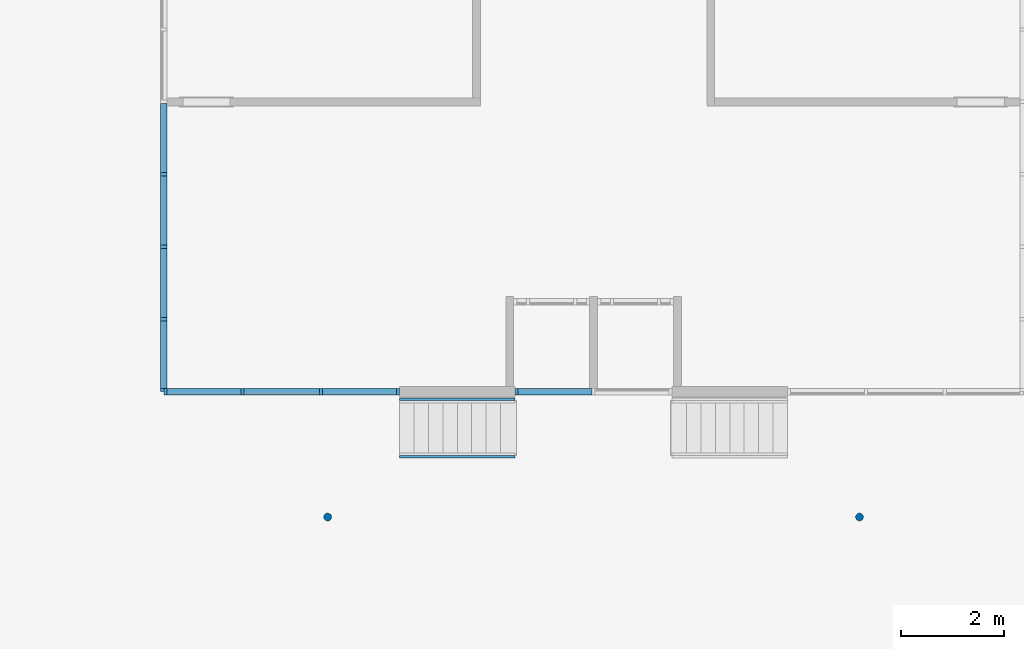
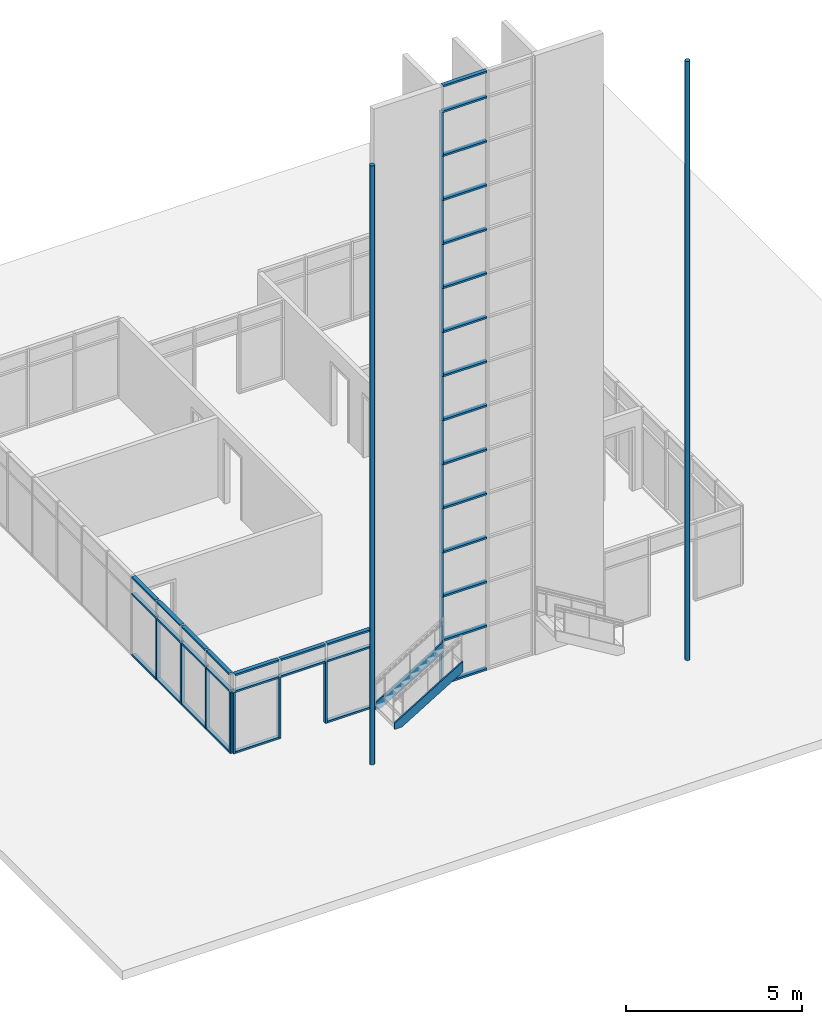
# One storey, part 1 of 12: 58 members, 2 columns, 4 elements without a shape of their own.
"""IFC2X3 building model written with IfcOpenShell, lengths in feet."""

from ifc_helpers import new_model, entity, si_unit, converted_unit, derived_unit, direction, frame, frame_2d, origin, origin_2d_with_axis, place, context, subcontext, project, spatial, polyline, rectangle, circle, outline, extrude, source, transform, mapped, material, type_object, type_shapes, element, aggregate, save


model = new_model("IFC2X3")

# Units and contexts
model_context = context("Model", 3, precision=0.0001, world=origin(), true_north=direction((6.12303176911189e-17, 1.0)))
body_context = subcontext(model_context, "Body", "Model", "MODEL_VIEW")
ifc_project = project(units=[converted_unit("LENGTHUNIT", "FOOT", entity("IfcRatioMeasure", 0.3048), si_unit("LENGTHUNIT", "METRE"), dimensions=[1, 0, 0, 0, 0, 0, 0]), converted_unit("AREAUNIT", "SQUARE FOOT", entity("IfcRatioMeasure", 0.09290304), si_unit("AREAUNIT", "SQUARE_METRE"), dimensions=[2, 0, 0, 0, 0, 0, 0]), converted_unit("VOLUMEUNIT", "CUBIC FOOT", entity("IfcRatioMeasure", 0.028316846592), si_unit("VOLUMEUNIT", "CUBIC_METRE"), dimensions=[3, 0, 0, 0, 0, 0, 0]), converted_unit("PLANEANGLEUNIT", "DEGREE", entity("IfcRatioMeasure", 0.0174532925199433), si_unit("PLANEANGLEUNIT", "RADIAN"), dimensions=[0, 0, 0, 0, 0, 0, 0]), si_unit("MASSUNIT", "GRAM", prefix="KILO"), derived_unit("MASSDENSITYUNIT", [(si_unit("MASSUNIT", "GRAM", prefix="KILO"), 1), (si_unit("LENGTHUNIT", "METRE"), -3)]), si_unit("TIMEUNIT", "SECOND"), si_unit("FREQUENCYUNIT", "HERTZ"), si_unit("THERMODYNAMICTEMPERATUREUNIT", "DEGREE_CELSIUS"), derived_unit("THERMALTRANSMITTANCEUNIT", [(si_unit("MASSUNIT", "GRAM", prefix="KILO"), 1), (si_unit("THERMODYNAMICTEMPERATUREUNIT", "KELVIN"), -1), (si_unit("TIMEUNIT", "SECOND"), -3)]), derived_unit("VOLUMETRICFLOWRATEUNIT", [(si_unit("LENGTHUNIT", "METRE"), 3), (si_unit("TIMEUNIT", "SECOND"), -1)]), si_unit("ELECTRICCURRENTUNIT", "AMPERE"), si_unit("ELECTRICVOLTAGEUNIT", "VOLT"), si_unit("POWERUNIT", "WATT"), si_unit("FORCEUNIT", "NEWTON"), si_unit("ILLUMINANCEUNIT", "LUX"), si_unit("LUMINOUSFLUXUNIT", "LUMEN"), si_unit("LUMINOUSINTENSITYUNIT", "CANDELA"), derived_unit("USERDEFINED", [(si_unit("MASSUNIT", "GRAM", prefix="KILO"), -1), (si_unit("LENGTHUNIT", "METRE"), -2), (si_unit("TIMEUNIT", "SECOND"), 3), (si_unit("LUMINOUSFLUXUNIT", "LUMEN"), 1)]), derived_unit("LINEARVELOCITYUNIT", [(si_unit("LENGTHUNIT", "METRE"), 1), (si_unit("TIMEUNIT", "SECOND"), -1)]), si_unit("PRESSUREUNIT", "PASCAL"), derived_unit("USERDEFINED", [(si_unit("LENGTHUNIT", "METRE"), -2), (si_unit("MASSUNIT", "GRAM", prefix="KILO"), 1), (si_unit("TIMEUNIT", "SECOND"), -2)])], contexts=[model_context])

# Site, building, storey
site_placement = place(None, origin())
site = spatial("IfcSite", under=ifc_project, at=site_placement, Name="Default", CompositionType="ELEMENT")
building_placement = place(site_placement, origin())
building = spatial("IfcBuilding", under=site, at=building_placement, CompositionType="ELEMENT")
storey_placement = place(building_placement, origin())
storey = spatial("IfcBuildingStorey", under=building, at=storey_placement, Name="Level 1", CompositionType="ELEMENT", Elevation=0.0)

# Columns
column_type = type_object("IfcColumnType", Name="06\" Diameter", PredefinedType="COLUMN")
shared_shape_1 = source(origin(), body_context, "Body", "SweptSolid", [
    extrude(circle(Radius=0.249999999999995, at=frame_2d((1.4707620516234e-16, 0.0833333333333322), x_axis=(1.0, 0.0))), frame((0.0, 0.0833333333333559, 0.0), z_axis=(0.0, 0.0, 1.0), x_axis=(-1.0, 0.0, 0.0)), (0.0, 0.0, 1.0), 67.9999999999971),
])
type_shapes(column_type, [shared_shape_1])
for number, where in (
    (1, (-50.9084961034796, -14.9203079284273, 0.0)),
    (2, (-17.0751627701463, -14.9203079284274, 0.0)),
):
    element("IfcColumn", number, at=place(storey_placement, frame(where)), inside=storey, type_object=column_type, Name="Round Column:06\" Diameter", ObjectType="06\" Diameter", context=body_context, shape_type="MappedRepresentation", body=[
        mapped(shared_shape_1, transform((0.0, 0.0, 0.0), scale=1.0)),
    ])

# Stair, members
stair_placement = place(storey_placement, origin())
stair = element("IfcStair", 3, at=stair_placement, inside=storey, Name="Assembled Stair:Stair", ObjectType="Assembled Stair:7\" max riser 11\" tread", ShapeType="NOTDEFINED")
member_type_1 = type_object("IfcMemberType", Name="Stringer:Stringer - 2\" Width", PredefinedType="STRINGER")
member_1_placement = place(stair_placement, origin())
member_1 = element("IfcMember", 4, at=member_1_placement, type_object=member_type_1, Name="Assembled Stair:Stair:188699 Stringer 1", ObjectType="Assembled Stair:7\" max riser 11\" tread", context=body_context, shape_type="SweptSolid", body=[
    extrude(outline(polyline([(-3.29811864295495, -0.519028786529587), (5.27689530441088, -0.519028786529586), (4.67083469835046, 0.480971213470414), (-2.99079942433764, 0.480971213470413), (-3.65881193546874, 0.0761151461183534), (-3.29811864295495, -0.519028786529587)])), frame((-43.235605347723, -7.50364126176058, 1.96146201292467), z_axis=(0.0, 1.0, 0.0), x_axis=(0.855197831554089, 0.0, 0.518301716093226)), (0.0, 0.0, 1.0), 0.166666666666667),
])
member_2_placement = place(stair_placement, origin())
member_2 = element("IfcMember", 5, at=member_2_placement, type_object=member_type_1, Name="Assembled Stair:Stair:188699 Stringer 2", ObjectType="Assembled Stair:7\" max riser 11\" tread", context=body_context, shape_type="SweptSolid", body=[
    extrude(outline(polyline([(-3.29811864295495, -0.519028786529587), (5.27689530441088, -0.519028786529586), (4.67083469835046, 0.480971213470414), (-2.99079942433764, 0.480971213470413), (-3.65881193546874, 0.0761151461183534), (-3.29811864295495, -0.519028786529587)])), frame((-43.235605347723, -11.1703079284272, 1.96146201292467), z_axis=(0.0, 1.0, 0.0), x_axis=(0.855197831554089, 0.0, 0.518301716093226)), (0.0, 0.0, 1.0), 0.166666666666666),
])
aggregate(stair, [member_1, member_2])

# Curtain wall, member
curtain_wall_type_1 = type_object("IfcCurtainWallType", Name="Curtain Wall:Storefront", PredefinedType="NOTDEFINED")
curtain_wall_1_placement = place(storey_placement, origin())
curtain_wall_1 = element("IfcCurtainWall", 6, at=curtain_wall_1_placement, inside=storey, type_object=curtain_wall_type_1, Name="Curtain Wall:Storefront", ObjectType="Curtain Wall:Storefront")
ifc_material = material(Name="Aluminum")
member_type_2 = type_object("IfcMemberType", Name="2.5\" x 5\" rectangular", PredefinedType="MEMBER")
shared_shape_2 = source(origin(), body_context, "Body", "SweptSolid", [
    extrude(rectangle(XDim=0.416666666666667, YDim=0.208333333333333, at=origin_2d_with_axis()), frame((-0.104166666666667, 0.0, -4.6875), z_axis=(0.0, 0.0, 1.0), x_axis=(0.0, -1.0, 0.0)), (0.0, 0.0, 1.0), 4.6875),
])
type_shapes(member_type_2, [shared_shape_2])
member_3_placement = place(storey_placement, frame((-34.0959961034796, -6.94114126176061, 68.0), z_axis=(1.0, 0.0, 0.0), x_axis=(0.0, 0.0, 1.0)))
member_3 = element("IfcMember", 7, at=member_3_placement, type_object=member_type_2, material=ifc_material, Name="Rectangular Mullion:2.5\" x 5\" rectangular", ObjectType="2.5\" x 5\" rectangular", context=body_context, shape_type="MappedRepresentation", body=[
    mapped(shared_shape_2, transform((0.0, 0.0, 0.0), scale=1.0)),
])

# Curtain wall, members
curtain_wall_type_2 = type_object("IfcCurtainWallType", Name="Curtain Wall:Storefront 2", PredefinedType="NOTDEFINED")
curtain_wall_2_placement = place(storey_placement, origin())
curtain_wall_2 = element("IfcCurtainWall", 8, at=curtain_wall_2_placement, inside=storey, type_object=curtain_wall_type_2, Name="Curtain Wall:Storefront 2", ObjectType="Curtain Wall:Storefront 2")
member_4_placement = place(storey_placement, frame((-61.1168294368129, -6.94114126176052, 9.0), z_axis=(-1.0, 0.0, 0.0), x_axis=(0.0, 0.0, 1.0)))
member_4 = element("IfcMember", 9, at=member_4_placement, type_object=member_type_2, material=ifc_material, Name="Rectangular Mullion:2.5\" x 5\" rectangular", ObjectType="2.5\" x 5\" rectangular", context=body_context, shape_type="MappedRepresentation", body=[
    mapped(shared_shape_2, transform((0.0, 0.0, 0.0), scale=1.0)),
])
member_5_placement = place(storey_placement, frame((-51.2209961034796, -6.94114126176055, 9.0), z_axis=(-1.0, 0.0, 0.0), x_axis=(0.0, 0.0, 1.0)))
member_5 = element("IfcMember", 10, at=member_5_placement, type_object=member_type_2, material=ifc_material, Name="Rectangular Mullion:2.5\" x 5\" rectangular", ObjectType="2.5\" x 5\" rectangular", context=body_context, shape_type="MappedRepresentation", body=[
    mapped(shared_shape_2, transform((0.0, 0.0, 0.0), scale=1.0)),
])

# Member
member_type_3 = type_object("IfcMemberType", Name="2.5\" x 5\" rectangular", PredefinedType="MEMBER")
shared_shape_3 = source(origin(), body_context, "Body", "SweptSolid", [
    extrude(rectangle(XDim=0.416666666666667, YDim=0.208333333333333, at=origin_2d_with_axis()), frame((-0.104166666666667, 0.0, -4.6875), z_axis=(0.0, 0.0, 1.0), x_axis=(0.0, -1.0, 0.0)), (0.0, 0.0, 1.0), 4.6875),
])
type_shapes(member_type_3, [shared_shape_3])
member_6_placement = place(storey_placement, frame((-38.7834961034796, -6.94114126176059, 0.0), z_axis=(-1.0, 0.0, 0.0), x_axis=(0.0, 0.0, -1.0)))
member_6 = element("IfcMember", 11, at=member_6_placement, type_object=member_type_3, material=ifc_material, Name="Rectangular Mullion:2.5\" x 5\" rectangular", ObjectType="2.5\" x 5\" rectangular", context=body_context, shape_type="MappedRepresentation", body=[
    mapped(shared_shape_3, transform((0.0, 0.0, 0.0), scale=1.0)),
])

member_7_placement = place(storey_placement, frame((-46.5334961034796, -6.94114126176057, 0.0), z_axis=(1.0, 0.0, 0.0), x_axis=(0.0, 0.0, -1.0)))
member_7 = element("IfcMember", 12, at=member_7_placement, type_object=member_type_3, material=ifc_material, Name="Rectangular Mullion:2.5\" x 5\" rectangular", ObjectType="2.5\" x 5\" rectangular", context=body_context, shape_type="MappedRepresentation", body=[
    mapped(shared_shape_3, transform((0.0, 0.0, 0.0), scale=1.0)),
])

member_8_placement = place(storey_placement, frame((-56.4293294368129, -6.94114126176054, 0.0), z_axis=(1.0, 0.0, 0.0), x_axis=(0.0, 0.0, -1.0)))
member_8 = element("IfcMember", 13, at=member_8_placement, type_object=member_type_3, material=ifc_material, Name="Rectangular Mullion:2.5\" x 5\" rectangular", ObjectType="2.5\" x 5\" rectangular", context=body_context, shape_type="MappedRepresentation", body=[
    mapped(shared_shape_3, transform((0.0, 0.0, 0.0), scale=1.0)),
])

member_type_4 = type_object("IfcMemberType", Name="2.5\" x 5\" rectangular", PredefinedType="MEMBER")
shared_shape_4 = source(origin(), body_context, "Body", "SweptSolid", [
    extrude(rectangle(XDim=0.416666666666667, YDim=0.208333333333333, at=origin_2d_with_axis()), frame((-0.104166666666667, 0.0, -5.0), z_axis=(0.0, 0.0, 1.0), x_axis=(0.0, -1.0, 0.0)), (0.0, 0.0, 1.0), 5.0),
])
type_shapes(member_type_4, [shared_shape_4])
member_9_placement = place(storey_placement, frame((-38.9918294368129, -6.94114126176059, 5.0), z_axis=(0.0, 0.0, 1.0), x_axis=(-1.0, 0.0, 0.0)))
member_9 = element("IfcMember", 14, at=member_9_placement, type_object=member_type_4, material=ifc_material, Name="Rectangular Mullion:2.5\" x 5\" rectangular", ObjectType="2.5\" x 5\" rectangular", context=body_context, shape_type="MappedRepresentation", body=[
    mapped(shared_shape_4, transform((0.0, 0.0, 0.0), scale=1.0)),
])

member_type_5 = type_object("IfcMemberType", Name="2.5\" x 5\" rectangular", PredefinedType="MEMBER")
shared_shape_5 = source(origin(), body_context, "Body", "SweptSolid", [
    extrude(rectangle(XDim=0.416666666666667, YDim=0.208333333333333, at=origin_2d_with_axis()), frame((-0.104166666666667, 0.0, -5.0), z_axis=(0.0, 0.0, 1.0), x_axis=(0.0, -1.0, 0.0)), (0.0, 0.0, 1.0), 5.0),
])
type_shapes(member_type_5, [shared_shape_5])
member_10_placement = place(storey_placement, frame((-38.9918294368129, -6.94114126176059, 10.0), z_axis=(0.0, 0.0, 1.0), x_axis=(-1.0, 0.0, 0.0)))
member_10 = element("IfcMember", 15, at=member_10_placement, type_object=member_type_5, material=ifc_material, Name="Rectangular Mullion:2.5\" x 5\" rectangular", ObjectType="2.5\" x 5\" rectangular", context=body_context, shape_type="MappedRepresentation", body=[
    mapped(shared_shape_5, transform((0.0, 0.0, 0.0), scale=1.0)),
])

member_11_placement = place(storey_placement, frame((-38.9918294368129, -6.94114126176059, 15.0), z_axis=(0.0, 0.0, 1.0), x_axis=(-1.0, 0.0, 0.0)))
member_11 = element("IfcMember", 16, at=member_11_placement, type_object=member_type_5, material=ifc_material, Name="Rectangular Mullion:2.5\" x 5\" rectangular", ObjectType="2.5\" x 5\" rectangular", context=body_context, shape_type="MappedRepresentation", body=[
    mapped(shared_shape_5, transform((0.0, 0.0, 0.0), scale=1.0)),
])

member_12_placement = place(storey_placement, frame((-38.9918294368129, -6.94114126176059, 20.0), z_axis=(0.0, 0.0, 1.0), x_axis=(-1.0, 0.0, 0.0)))
member_12 = element("IfcMember", 17, at=member_12_placement, type_object=member_type_5, material=ifc_material, Name="Rectangular Mullion:2.5\" x 5\" rectangular", ObjectType="2.5\" x 5\" rectangular", context=body_context, shape_type="MappedRepresentation", body=[
    mapped(shared_shape_5, transform((0.0, 0.0, 0.0), scale=1.0)),
])

member_13_placement = place(storey_placement, frame((-38.9918294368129, -6.94114126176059, 25.0), z_axis=(0.0, 0.0, 1.0), x_axis=(-1.0, 0.0, 0.0)))
member_13 = element("IfcMember", 18, at=member_13_placement, type_object=member_type_5, material=ifc_material, Name="Rectangular Mullion:2.5\" x 5\" rectangular", ObjectType="2.5\" x 5\" rectangular", context=body_context, shape_type="MappedRepresentation", body=[
    mapped(shared_shape_5, transform((0.0, 0.0, 0.0), scale=1.0)),
])

member_14_placement = place(storey_placement, frame((-38.9918294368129, -6.94114126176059, 30.0), z_axis=(0.0, 0.0, 1.0), x_axis=(-1.0, 0.0, 0.0)))
member_14 = element("IfcMember", 19, at=member_14_placement, type_object=member_type_5, material=ifc_material, Name="Rectangular Mullion:2.5\" x 5\" rectangular", ObjectType="2.5\" x 5\" rectangular", context=body_context, shape_type="MappedRepresentation", body=[
    mapped(shared_shape_5, transform((0.0, 0.0, 0.0), scale=1.0)),
])

member_15_placement = place(storey_placement, frame((-38.9918294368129, -6.94114126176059, 35.0), z_axis=(0.0, 0.0, 1.0), x_axis=(-1.0, 0.0, 0.0)))
member_15 = element("IfcMember", 20, at=member_15_placement, type_object=member_type_5, material=ifc_material, Name="Rectangular Mullion:2.5\" x 5\" rectangular", ObjectType="2.5\" x 5\" rectangular", context=body_context, shape_type="MappedRepresentation", body=[
    mapped(shared_shape_5, transform((0.0, 0.0, 0.0), scale=1.0)),
])

member_16_placement = place(storey_placement, frame((-38.9918294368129, -6.94114126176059, 40.0), z_axis=(0.0, 0.0, 1.0), x_axis=(-1.0, 0.0, 0.0)))
member_16 = element("IfcMember", 21, at=member_16_placement, type_object=member_type_5, material=ifc_material, Name="Rectangular Mullion:2.5\" x 5\" rectangular", ObjectType="2.5\" x 5\" rectangular", context=body_context, shape_type="MappedRepresentation", body=[
    mapped(shared_shape_5, transform((0.0, 0.0, 0.0), scale=1.0)),
])

member_17_placement = place(storey_placement, frame((-38.9918294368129, -6.94114126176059, 45.0), z_axis=(0.0, 0.0, 1.0), x_axis=(-1.0, 0.0, 0.0)))
member_17 = element("IfcMember", 22, at=member_17_placement, type_object=member_type_5, material=ifc_material, Name="Rectangular Mullion:2.5\" x 5\" rectangular", ObjectType="2.5\" x 5\" rectangular", context=body_context, shape_type="MappedRepresentation", body=[
    mapped(shared_shape_5, transform((0.0, 0.0, 0.0), scale=1.0)),
])

member_18_placement = place(storey_placement, frame((-38.9918294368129, -6.94114126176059, 50.0), z_axis=(0.0, 0.0, 1.0), x_axis=(-1.0, 0.0, 0.0)))
member_18 = element("IfcMember", 23, at=member_18_placement, type_object=member_type_5, material=ifc_material, Name="Rectangular Mullion:2.5\" x 5\" rectangular", ObjectType="2.5\" x 5\" rectangular", context=body_context, shape_type="MappedRepresentation", body=[
    mapped(shared_shape_5, transform((0.0, 0.0, 0.0), scale=1.0)),
])

member_19_placement = place(storey_placement, frame((-38.9918294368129, -6.94114126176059, 55.0), z_axis=(0.0, 0.0, 1.0), x_axis=(-1.0, 0.0, 0.0)))
member_19 = element("IfcMember", 24, at=member_19_placement, type_object=member_type_5, material=ifc_material, Name="Rectangular Mullion:2.5\" x 5\" rectangular", ObjectType="2.5\" x 5\" rectangular", context=body_context, shape_type="MappedRepresentation", body=[
    mapped(shared_shape_5, transform((0.0, 0.0, 0.0), scale=1.0)),
])

member_20_placement = place(storey_placement, frame((-38.9918294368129, -6.94114126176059, 60.0), z_axis=(0.0, 0.0, 1.0), x_axis=(-1.0, 0.0, 0.0)))
member_20 = element("IfcMember", 25, at=member_20_placement, type_object=member_type_5, material=ifc_material, Name="Rectangular Mullion:2.5\" x 5\" rectangular", ObjectType="2.5\" x 5\" rectangular", context=body_context, shape_type="MappedRepresentation", body=[
    mapped(shared_shape_5, transform((0.0, 0.0, 0.0), scale=1.0)),
])

member_21_placement = place(storey_placement, frame((-38.9918294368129, -6.94114126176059, 65.0), z_axis=(0.0, 0.0, 1.0), x_axis=(-1.0, 0.0, 0.0)))
member_21 = element("IfcMember", 26, at=member_21_placement, type_object=member_type_5, material=ifc_material, Name="Rectangular Mullion:2.5\" x 5\" rectangular", ObjectType="2.5\" x 5\" rectangular", context=body_context, shape_type="MappedRepresentation", body=[
    mapped(shared_shape_5, transform((0.0, 0.0, 0.0), scale=1.0)),
])

member_type_6 = type_object("IfcMemberType", Name="2.5\" x 5\" rectangular", PredefinedType="MEMBER")
shared_shape_6 = source(origin(), body_context, "Body", "SweptSolid", [
    extrude(rectangle(XDim=0.416666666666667, YDim=0.208333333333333, at=origin_2d_with_axis()), frame((0.0, 0.0, -4.6875), z_axis=(0.0, 0.0, 1.0), x_axis=(0.0, -1.0, 0.0)), (0.0, 0.0, 1.0), 4.6875),
])
type_shapes(member_type_6, [shared_shape_6])
member_22_placement = place(storey_placement, frame((-34.0959961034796, -6.94114126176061, 5.0), z_axis=(1.0, 0.0, 0.0), x_axis=(0.0, 0.0, 1.0)))
member_22 = element("IfcMember", 27, at=member_22_placement, type_object=member_type_6, material=ifc_material, Name="Rectangular Mullion:2.5\" x 5\" rectangular", ObjectType="2.5\" x 5\" rectangular", context=body_context, shape_type="MappedRepresentation", body=[
    mapped(shared_shape_6, transform((0.0, 0.0, 0.0), scale=1.0)),
])

member_23_placement = place(storey_placement, frame((-34.0959961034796, -6.94114126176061, 10.0), z_axis=(1.0, 0.0, 0.0), x_axis=(0.0, 0.0, 1.0)))
member_23 = element("IfcMember", 28, at=member_23_placement, type_object=member_type_6, material=ifc_material, Name="Rectangular Mullion:2.5\" x 5\" rectangular", ObjectType="2.5\" x 5\" rectangular", context=body_context, shape_type="MappedRepresentation", body=[
    mapped(shared_shape_6, transform((0.0, 0.0, 0.0), scale=1.0)),
])

member_24_placement = place(storey_placement, frame((-34.0959961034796, -6.94114126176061, 15.0), z_axis=(1.0, 0.0, 0.0), x_axis=(0.0, 0.0, 1.0)))
member_24 = element("IfcMember", 29, at=member_24_placement, type_object=member_type_6, material=ifc_material, Name="Rectangular Mullion:2.5\" x 5\" rectangular", ObjectType="2.5\" x 5\" rectangular", context=body_context, shape_type="MappedRepresentation", body=[
    mapped(shared_shape_6, transform((0.0, 0.0, 0.0), scale=1.0)),
])

member_25_placement = place(storey_placement, frame((-34.0959961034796, -6.94114126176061, 20.0), z_axis=(1.0, 0.0, 0.0), x_axis=(0.0, 0.0, 1.0)))
member_25 = element("IfcMember", 30, at=member_25_placement, type_object=member_type_6, material=ifc_material, Name="Rectangular Mullion:2.5\" x 5\" rectangular", ObjectType="2.5\" x 5\" rectangular", context=body_context, shape_type="MappedRepresentation", body=[
    mapped(shared_shape_6, transform((0.0, 0.0, 0.0), scale=1.0)),
])

member_26_placement = place(storey_placement, frame((-34.0959961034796, -6.94114126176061, 25.0), z_axis=(1.0, 0.0, 0.0), x_axis=(0.0, 0.0, 1.0)))
member_26 = element("IfcMember", 31, at=member_26_placement, type_object=member_type_6, material=ifc_material, Name="Rectangular Mullion:2.5\" x 5\" rectangular", ObjectType="2.5\" x 5\" rectangular", context=body_context, shape_type="MappedRepresentation", body=[
    mapped(shared_shape_6, transform((0.0, 0.0, 0.0), scale=1.0)),
])

member_27_placement = place(storey_placement, frame((-34.0959961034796, -6.94114126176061, 30.0), z_axis=(1.0, 0.0, 0.0), x_axis=(0.0, 0.0, 1.0)))
member_27 = element("IfcMember", 32, at=member_27_placement, type_object=member_type_6, material=ifc_material, Name="Rectangular Mullion:2.5\" x 5\" rectangular", ObjectType="2.5\" x 5\" rectangular", context=body_context, shape_type="MappedRepresentation", body=[
    mapped(shared_shape_6, transform((0.0, 0.0, 0.0), scale=1.0)),
])

member_28_placement = place(storey_placement, frame((-34.0959961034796, -6.94114126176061, 35.0), z_axis=(1.0, 0.0, 0.0), x_axis=(0.0, 0.0, 1.0)))
member_28 = element("IfcMember", 33, at=member_28_placement, type_object=member_type_6, material=ifc_material, Name="Rectangular Mullion:2.5\" x 5\" rectangular", ObjectType="2.5\" x 5\" rectangular", context=body_context, shape_type="MappedRepresentation", body=[
    mapped(shared_shape_6, transform((0.0, 0.0, 0.0), scale=1.0)),
])

member_29_placement = place(storey_placement, frame((-34.0959961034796, -6.94114126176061, 40.0), z_axis=(1.0, 0.0, 0.0), x_axis=(0.0, 0.0, 1.0)))
member_29 = element("IfcMember", 34, at=member_29_placement, type_object=member_type_6, material=ifc_material, Name="Rectangular Mullion:2.5\" x 5\" rectangular", ObjectType="2.5\" x 5\" rectangular", context=body_context, shape_type="MappedRepresentation", body=[
    mapped(shared_shape_6, transform((0.0, 0.0, 0.0), scale=1.0)),
])

member_30_placement = place(storey_placement, frame((-34.0959961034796, -6.94114126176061, 45.0), z_axis=(1.0, 0.0, 0.0), x_axis=(0.0, 0.0, 1.0)))
member_30 = element("IfcMember", 35, at=member_30_placement, type_object=member_type_6, material=ifc_material, Name="Rectangular Mullion:2.5\" x 5\" rectangular", ObjectType="2.5\" x 5\" rectangular", context=body_context, shape_type="MappedRepresentation", body=[
    mapped(shared_shape_6, transform((0.0, 0.0, 0.0), scale=1.0)),
])

member_31_placement = place(storey_placement, frame((-34.0959961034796, -6.94114126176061, 50.0), z_axis=(1.0, 0.0, 0.0), x_axis=(0.0, 0.0, 1.0)))
member_31 = element("IfcMember", 36, at=member_31_placement, type_object=member_type_6, material=ifc_material, Name="Rectangular Mullion:2.5\" x 5\" rectangular", ObjectType="2.5\" x 5\" rectangular", context=body_context, shape_type="MappedRepresentation", body=[
    mapped(shared_shape_6, transform((0.0, 0.0, 0.0), scale=1.0)),
])

member_32_placement = place(storey_placement, frame((-34.0959961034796, -6.94114126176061, 55.0), z_axis=(1.0, 0.0, 0.0), x_axis=(0.0, 0.0, 1.0)))
member_32 = element("IfcMember", 37, at=member_32_placement, type_object=member_type_6, material=ifc_material, Name="Rectangular Mullion:2.5\" x 5\" rectangular", ObjectType="2.5\" x 5\" rectangular", context=body_context, shape_type="MappedRepresentation", body=[
    mapped(shared_shape_6, transform((0.0, 0.0, 0.0), scale=1.0)),
])

member_33_placement = place(storey_placement, frame((-34.0959961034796, -6.94114126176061, 60.0), z_axis=(1.0, 0.0, 0.0), x_axis=(0.0, 0.0, 1.0)))
member_33 = element("IfcMember", 38, at=member_33_placement, type_object=member_type_6, material=ifc_material, Name="Rectangular Mullion:2.5\" x 5\" rectangular", ObjectType="2.5\" x 5\" rectangular", context=body_context, shape_type="MappedRepresentation", body=[
    mapped(shared_shape_6, transform((0.0, 0.0, 0.0), scale=1.0)),
])

member_34_placement = place(storey_placement, frame((-34.0959961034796, -6.94114126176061, 65.0), z_axis=(1.0, 0.0, 0.0), x_axis=(0.0, 0.0, 1.0)))
member_34 = element("IfcMember", 39, at=member_34_placement, type_object=member_type_6, material=ifc_material, Name="Rectangular Mullion:2.5\" x 5\" rectangular", ObjectType="2.5\" x 5\" rectangular", context=body_context, shape_type="MappedRepresentation", body=[
    mapped(shared_shape_6, transform((0.0, 0.0, 0.0), scale=1.0)),
])

aggregate(curtain_wall_1, [member_3, member_6, member_9, member_10, member_22, member_23, member_11, member_12, member_13, member_14, member_15, member_24, member_25, member_26, member_27, member_28, member_16, member_17, member_18, member_19, member_29, member_30, member_31, member_32, member_20, member_21, member_33, member_34])

member_35_placement = place(storey_placement, frame((-51.2209961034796, -6.94114126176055, 7.0), z_axis=(-1.0, 0.0, 0.0), x_axis=(0.0, 0.0, 1.0)))
member_35 = element("IfcMember", 40, at=member_35_placement, type_object=member_type_6, material=ifc_material, Name="Rectangular Mullion:2.5\" x 5\" rectangular", ObjectType="2.5\" x 5\" rectangular", context=body_context, shape_type="MappedRepresentation", body=[
    mapped(shared_shape_6, transform((0.0, 0.0, 0.0), scale=1.0)),
])

member_36_placement = place(storey_placement, frame((-61.1168294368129, -6.94114126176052, 7.0), z_axis=(-1.0, 0.0, 0.0), x_axis=(0.0, 0.0, 1.0)))
member_36 = element("IfcMember", 41, at=member_36_placement, type_object=member_type_6, material=ifc_material, Name="Rectangular Mullion:2.5\" x 5\" rectangular", ObjectType="2.5\" x 5\" rectangular", context=body_context, shape_type="MappedRepresentation", body=[
    mapped(shared_shape_6, transform((0.0, 0.0, 0.0), scale=1.0)),
])

member_type_7 = type_object("IfcMemberType", Name="2.5\" x 5\" rectangular", PredefinedType="MEMBER")
shared_shape_7 = source(origin(), body_context, "Body", "SweptSolid", [
    extrude(rectangle(XDim=0.416666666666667, YDim=0.208333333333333, at=origin_2d_with_axis()), frame((-0.104166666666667, 0.0, -4.79166666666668), z_axis=(0.0, 0.0, 1.0), x_axis=(0.0, -1.0, 0.0)), (0.0, 0.0, 1.0), 4.79166666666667),
])
type_shapes(member_type_7, [shared_shape_7])
member_37_placement = place(storey_placement, frame((-56.2209961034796, -6.94114126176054, 9.0), z_axis=(-1.0, 0.0, 0.0), x_axis=(0.0, 0.0, 1.0)))
member_37 = element("IfcMember", 42, at=member_37_placement, type_object=member_type_7, material=ifc_material, Name="Rectangular Mullion:2.5\" x 5\" rectangular", ObjectType="2.5\" x 5\" rectangular", context=body_context, shape_type="MappedRepresentation", body=[
    mapped(shared_shape_7, transform((0.0, 0.0, 0.0), scale=1.0)),
])

member_type_8 = type_object("IfcMemberType", Name="2.5\" x 5\" rectangular", PredefinedType="MEMBER")
shared_shape_8 = source(origin(), body_context, "Body", "SweptSolid", [
    extrude(rectangle(XDim=0.416666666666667, YDim=0.208333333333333, at=origin_2d_with_axis()), frame((-0.104166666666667, 0.0, -7.0), z_axis=(0.0, 0.0, 1.0), x_axis=(0.0, -1.0, 0.0)), (0.0, 0.0, 1.0), 7.0),
])
type_shapes(member_type_8, [shared_shape_8])
member_38_placement = place(storey_placement, frame((-61.3251627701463, -6.94114126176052, 0.0), z_axis=(0.0, 0.0, -1.0), x_axis=(-1.0, 0.0, 0.0)))
member_38 = element("IfcMember", 43, at=member_38_placement, type_object=member_type_8, material=ifc_material, Name="Rectangular Mullion:2.5\" x 5\" rectangular", ObjectType="2.5\" x 5\" rectangular", context=body_context, shape_type="MappedRepresentation", body=[
    mapped(shared_shape_8, transform((0.0, 0.0, 0.0), scale=1.0)),
])

member_type_9 = type_object("IfcMemberType", Name="2.5\" x 5\" rectangular", PredefinedType="MEMBER")
shared_shape_9 = source(origin(), body_context, "Body", "SweptSolid", [
    extrude(rectangle(XDim=0.416666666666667, YDim=0.208333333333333, at=origin_2d_with_axis()), frame((-0.104166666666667, 0.0, -7.0), z_axis=(0.0, 0.0, 1.0), x_axis=(0.0, -1.0, 0.0)), (0.0, 0.0, 1.0), 7.0),
])
type_shapes(member_type_9, [shared_shape_9])
member_39_placement = place(storey_placement, frame((-46.3251627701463, -6.94114126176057, 7.0)))
member_39 = element("IfcMember", 44, at=member_39_placement, type_object=member_type_9, material=ifc_material, Name="Rectangular Mullion:2.5\" x 5\" rectangular", ObjectType="2.5\" x 5\" rectangular", context=body_context, shape_type="MappedRepresentation", body=[
    mapped(shared_shape_9, transform((0.0, 0.0, 0.0), scale=1.0)),
])

# Curtain wall, member
curtain_wall_3_placement = place(storey_placement, origin())
curtain_wall_3 = element("IfcCurtainWall", 45, at=curtain_wall_3_placement, inside=storey, type_object=curtain_wall_type_2, Name="Curtain Wall:Storefront 2", ObjectType="Curtain Wall:Storefront 2")
member_40_placement = place(storey_placement, frame((-61.3251627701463, -6.94114126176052, 7.0), z_axis=(0.0, 0.0, 1.0), x_axis=(0.0, -1.0, 0.0)))
member_40 = element("IfcMember", 46, at=member_40_placement, type_object=member_type_9, material=ifc_material, Name="Rectangular Mullion:2.5\" x 5\" rectangular", ObjectType="2.5\" x 5\" rectangular", context=body_context, shape_type="MappedRepresentation", body=[
    mapped(shared_shape_9, transform((0.0, 0.0, 0.0), scale=1.0)),
])

# Member
member_type_10 = type_object("IfcMemberType", Name="2.5\" x 5\" rectangular", PredefinedType="MEMBER")
shared_shape_10 = source(origin(), body_context, "Body", "SweptSolid", [
    extrude(rectangle(XDim=0.416666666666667, YDim=0.208333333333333, at=origin_2d_with_axis()), frame((0.0, 0.0, -4.79166666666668), z_axis=(0.0, 0.0, 1.0), x_axis=(0.0, -1.0, 0.0)), (0.0, 0.0, 1.0), 4.79166666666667),
])
type_shapes(member_type_10, [shared_shape_10])
member_41_placement = place(storey_placement, frame((-56.2209961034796, -6.94114126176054, 7.0), z_axis=(-1.0, 0.0, 0.0), x_axis=(0.0, 0.0, 1.0)))
member_41 = element("IfcMember", 47, at=member_41_placement, type_object=member_type_10, material=ifc_material, Name="Rectangular Mullion:2.5\" x 5\" rectangular", ObjectType="2.5\" x 5\" rectangular", context=body_context, shape_type="MappedRepresentation", body=[
    mapped(shared_shape_10, transform((0.0, 0.0, 0.0), scale=1.0)),
])

member_type_11 = type_object("IfcMemberType", Name="2.5\" x 5\" rectangular", PredefinedType="MEMBER")
shared_shape_11 = source(origin(), body_context, "Body", "SweptSolid", [
    extrude(rectangle(XDim=0.416666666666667, YDim=0.208333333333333, at=origin_2d_with_axis()), frame((0.0, 0.0, -7.0), z_axis=(0.0, 0.0, 1.0), x_axis=(0.0, -1.0, 0.0)), (0.0, 0.0, 1.0), 7.0),
])
type_shapes(member_type_11, [shared_shape_11])
member_42_placement = place(storey_placement, frame((-51.3251627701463, -6.94114126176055, 0.0), z_axis=(0.0, 0.0, -1.0), x_axis=(-1.0, 0.0, 0.0)))
member_42 = element("IfcMember", 48, at=member_42_placement, type_object=member_type_11, material=ifc_material, Name="Rectangular Mullion:2.5\" x 5\" rectangular", ObjectType="2.5\" x 5\" rectangular", context=body_context, shape_type="MappedRepresentation", body=[
    mapped(shared_shape_11, transform((0.0, 0.0, 0.0), scale=1.0)),
])

member_43_placement = place(storey_placement, frame((-56.3251627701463, -6.94114126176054, 0.0), z_axis=(0.0, 0.0, -1.0), x_axis=(-1.0, 0.0, 0.0)))
member_43 = element("IfcMember", 49, at=member_43_placement, type_object=member_type_11, material=ifc_material, Name="Rectangular Mullion:2.5\" x 5\" rectangular", ObjectType="2.5\" x 5\" rectangular", context=body_context, shape_type="MappedRepresentation", body=[
    mapped(shared_shape_11, transform((0.0, 0.0, 0.0), scale=1.0)),
])

aggregate(curtain_wall_2, [member_4, member_5, member_37, member_7, member_8, member_38, member_39, member_35, member_41, member_36, member_42, member_43])

member_44_placement = place(storey_placement, frame((-61.3251627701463, -2.33350237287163, 0.0), z_axis=(0.0, 0.0, -1.0), x_axis=(0.0, 1.0, 0.0)))
member_44 = element("IfcMember", 50, at=member_44_placement, type_object=member_type_11, material=ifc_material, Name="Rectangular Mullion:2.5\" x 5\" rectangular", ObjectType="2.5\" x 5\" rectangular", context=body_context, shape_type="MappedRepresentation", body=[
    mapped(shared_shape_11, transform((0.0, 0.0, 0.0), scale=1.0)),
])

member_45_placement = place(storey_placement, frame((-61.3251627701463, 2.27413651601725, 0.0), z_axis=(0.0, 0.0, -1.0), x_axis=(0.0, 1.0, 0.0)))
member_45 = element("IfcMember", 51, at=member_45_placement, type_object=member_type_11, material=ifc_material, Name="Rectangular Mullion:2.5\" x 5\" rectangular", ObjectType="2.5\" x 5\" rectangular", context=body_context, shape_type="MappedRepresentation", body=[
    mapped(shared_shape_11, transform((0.0, 0.0, 0.0), scale=1.0)),
])

member_46_placement = place(storey_placement, frame((-61.3251627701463, 6.88177540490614, 0.0), z_axis=(0.0, 0.0, -1.0), x_axis=(0.0, 1.0, 0.0)))
member_46 = element("IfcMember", 52, at=member_46_placement, type_object=member_type_11, material=ifc_material, Name="Rectangular Mullion:2.5\" x 5\" rectangular", ObjectType="2.5\" x 5\" rectangular", context=body_context, shape_type="MappedRepresentation", body=[
    mapped(shared_shape_11, transform((0.0, 0.0, 0.0), scale=1.0)),
])

member_type_12 = type_object("IfcMemberType", Name="2.5\" x 5\" rectangular", PredefinedType="MEMBER")
shared_shape_12 = source(origin(), body_context, "Body", "SweptSolid", [
    extrude(rectangle(XDim=0.416666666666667, YDim=0.208333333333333, at=origin_2d_with_axis()), frame((-0.104166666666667, 0.0, -4.2951388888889), z_axis=(0.0, 0.0, 1.0), x_axis=(0.0, -1.0, 0.0)), (0.0, 0.0, 1.0), 4.2951388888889),
])
type_shapes(member_type_12, [shared_shape_12])
member_47_placement = place(storey_placement, frame((-61.3251627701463, -2.4376690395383, 9.0), z_axis=(0.0, 1.0, 0.0), x_axis=(0.0, 0.0, 1.0)))
member_47 = element("IfcMember", 53, at=member_47_placement, type_object=member_type_12, material=ifc_material, Name="Rectangular Mullion:2.5\" x 5\" rectangular", ObjectType="2.5\" x 5\" rectangular", context=body_context, shape_type="MappedRepresentation", body=[
    mapped(shared_shape_12, transform((0.0, 0.0, 0.0), scale=1.0)),
])

member_type_13 = type_object("IfcMemberType", Name="2.5\" x 5\" rectangular", PredefinedType="MEMBER")
shared_shape_13 = source(origin(), body_context, "Body", "SweptSolid", [
    extrude(rectangle(XDim=0.416666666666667, YDim=0.208333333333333, at=origin_2d_with_axis()), frame((-0.104166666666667, 0.0, -4.39930555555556), z_axis=(0.0, 0.0, 1.0), x_axis=(0.0, -1.0, 0.0)), (0.0, 0.0, 1.0), 4.39930555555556),
])
type_shapes(member_type_13, [shared_shape_13])
member_48_placement = place(storey_placement, frame((-61.3251627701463, 2.16996984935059, 9.0), z_axis=(0.0, 1.0, 0.0), x_axis=(0.0, 0.0, 1.0)))
member_48 = element("IfcMember", 54, at=member_48_placement, type_object=member_type_13, material=ifc_material, Name="Rectangular Mullion:2.5\" x 5\" rectangular", ObjectType="2.5\" x 5\" rectangular", context=body_context, shape_type="MappedRepresentation", body=[
    mapped(shared_shape_13, transform((0.0, 0.0, 0.0), scale=1.0)),
])

member_49_placement = place(storey_placement, frame((-61.3251627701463, 6.77760873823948, 9.0), z_axis=(0.0, 1.0, 0.0), x_axis=(0.0, 0.0, 1.0)))
member_49 = element("IfcMember", 55, at=member_49_placement, type_object=member_type_13, material=ifc_material, Name="Rectangular Mullion:2.5\" x 5\" rectangular", ObjectType="2.5\" x 5\" rectangular", context=body_context, shape_type="MappedRepresentation", body=[
    mapped(shared_shape_13, transform((0.0, 0.0, 0.0), scale=1.0)),
])

member_50_placement = place(storey_placement, frame((-61.3251627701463, 11.3852476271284, 9.0), z_axis=(0.0, 1.0, 0.0), x_axis=(0.0, 0.0, 1.0)))
member_50 = element("IfcMember", 56, at=member_50_placement, type_object=member_type_13, material=ifc_material, Name="Rectangular Mullion:2.5\" x 5\" rectangular", ObjectType="2.5\" x 5\" rectangular", context=body_context, shape_type="MappedRepresentation", body=[
    mapped(shared_shape_13, transform((0.0, 0.0, 0.0), scale=1.0)),
])

member_type_14 = type_object("IfcMemberType", Name="2.5\" x 5\" rectangular", PredefinedType="MEMBER")
shared_shape_14 = source(origin(), body_context, "Body", "SweptSolid", [
    extrude(rectangle(XDim=0.416666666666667, YDim=0.208333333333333, at=origin_2d_with_axis()), frame((-0.104166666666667, 0.0, -4.29513888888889), z_axis=(0.0, 0.0, 1.0), x_axis=(0.0, -1.0, 0.0)), (0.0, 0.0, 1.0), 4.29513888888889),
])
type_shapes(member_type_14, [shared_shape_14])
member_51_placement = place(storey_placement, frame((-61.3251627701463, -6.73280792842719, 0.0), z_axis=(0.0, -1.0, 0.0), x_axis=(0.0, 0.0, -1.0)))
member_51 = element("IfcMember", 57, at=member_51_placement, type_object=member_type_14, material=ifc_material, Name="Rectangular Mullion:2.5\" x 5\" rectangular", ObjectType="2.5\" x 5\" rectangular", context=body_context, shape_type="MappedRepresentation", body=[
    mapped(shared_shape_14, transform((0.0, 0.0, 0.0), scale=1.0)),
])

member_type_15 = type_object("IfcMemberType", Name="2.5\" x 5\" rectangular", PredefinedType="MEMBER")
shared_shape_15 = source(origin(), body_context, "Body", "SweptSolid", [
    extrude(rectangle(XDim=0.416666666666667, YDim=0.208333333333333, at=origin_2d_with_axis()), frame((-0.104166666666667, 0.0, -4.39930555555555), z_axis=(0.0, 0.0, 1.0), x_axis=(0.0, -1.0, 0.0)), (0.0, 0.0, 1.0), 4.39930555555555),
])
type_shapes(member_type_15, [shared_shape_15])
member_52_placement = place(storey_placement, frame((-61.3251627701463, -2.22933570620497, 0.0), z_axis=(0.0, -1.0, 0.0), x_axis=(0.0, 0.0, -1.0)))
member_52 = element("IfcMember", 58, at=member_52_placement, type_object=member_type_15, material=ifc_material, Name="Rectangular Mullion:2.5\" x 5\" rectangular", ObjectType="2.5\" x 5\" rectangular", context=body_context, shape_type="MappedRepresentation", body=[
    mapped(shared_shape_15, transform((0.0, 0.0, 0.0), scale=1.0)),
])

member_53_placement = place(storey_placement, frame((-61.3251627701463, 2.37830318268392, 0.0), z_axis=(0.0, -1.0, 0.0), x_axis=(0.0, 0.0, -1.0)))
member_53 = element("IfcMember", 59, at=member_53_placement, type_object=member_type_15, material=ifc_material, Name="Rectangular Mullion:2.5\" x 5\" rectangular", ObjectType="2.5\" x 5\" rectangular", context=body_context, shape_type="MappedRepresentation", body=[
    mapped(shared_shape_15, transform((0.0, 0.0, 0.0), scale=1.0)),
])

member_54_placement = place(storey_placement, frame((-61.3251627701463, 6.98594207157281, 0.0), z_axis=(0.0, -1.0, 0.0), x_axis=(0.0, 0.0, -1.0)))
member_54 = element("IfcMember", 60, at=member_54_placement, type_object=member_type_15, material=ifc_material, Name="Rectangular Mullion:2.5\" x 5\" rectangular", ObjectType="2.5\" x 5\" rectangular", context=body_context, shape_type="MappedRepresentation", body=[
    mapped(shared_shape_15, transform((0.0, 0.0, 0.0), scale=1.0)),
])

member_type_16 = type_object("IfcMemberType", Name="2.5\" x 5\" rectangular", PredefinedType="MEMBER")
shared_shape_16 = source(origin(), body_context, "Body", "SweptSolid", [
    extrude(rectangle(XDim=0.416666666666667, YDim=0.208333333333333, at=origin_2d_with_axis()), frame((0.0, 0.0, -4.29513888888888), z_axis=(0.0, 0.0, 1.0), x_axis=(0.0, -1.0, 0.0)), (0.0, 0.0, 1.0), 4.29513888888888),
])
type_shapes(member_type_16, [shared_shape_16])
member_55_placement = place(storey_placement, frame((-61.3251627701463, -2.4376690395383, 7.0), z_axis=(0.0, 1.0, 0.0), x_axis=(0.0, 0.0, 1.0)))
member_55 = element("IfcMember", 61, at=member_55_placement, type_object=member_type_16, material=ifc_material, Name="Rectangular Mullion:2.5\" x 5\" rectangular", ObjectType="2.5\" x 5\" rectangular", context=body_context, shape_type="MappedRepresentation", body=[
    mapped(shared_shape_16, transform((0.0, 0.0, 0.0), scale=1.0)),
])

member_type_17 = type_object("IfcMemberType", Name="2.5\" x 5\" rectangular", PredefinedType="MEMBER")
shared_shape_17 = source(origin(), body_context, "Body", "SweptSolid", [
    extrude(rectangle(XDim=0.416666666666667, YDim=0.208333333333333, at=origin_2d_with_axis()), frame((0.0, 0.0, -4.39930555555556), z_axis=(0.0, 0.0, 1.0), x_axis=(0.0, -1.0, 0.0)), (0.0, 0.0, 1.0), 4.39930555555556),
])
type_shapes(member_type_17, [shared_shape_17])
member_56_placement = place(storey_placement, frame((-61.3251627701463, 2.16996984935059, 7.0), z_axis=(0.0, 1.0, 0.0), x_axis=(0.0, 0.0, 1.0)))
member_56 = element("IfcMember", 62, at=member_56_placement, type_object=member_type_17, material=ifc_material, Name="Rectangular Mullion:2.5\" x 5\" rectangular", ObjectType="2.5\" x 5\" rectangular", context=body_context, shape_type="MappedRepresentation", body=[
    mapped(shared_shape_17, transform((0.0, 0.0, 0.0), scale=1.0)),
])

member_57_placement = place(storey_placement, frame((-61.3251627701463, 6.77760873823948, 7.0), z_axis=(0.0, 1.0, 0.0), x_axis=(0.0, 0.0, 1.0)))
member_57 = element("IfcMember", 63, at=member_57_placement, type_object=member_type_17, material=ifc_material, Name="Rectangular Mullion:2.5\" x 5\" rectangular", ObjectType="2.5\" x 5\" rectangular", context=body_context, shape_type="MappedRepresentation", body=[
    mapped(shared_shape_17, transform((0.0, 0.0, 0.0), scale=1.0)),
])

member_58_placement = place(storey_placement, frame((-61.3251627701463, 11.3852476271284, 7.0), z_axis=(0.0, 1.0, 0.0), x_axis=(0.0, 0.0, 1.0)))
member_58 = element("IfcMember", 64, at=member_58_placement, type_object=member_type_17, material=ifc_material, Name="Rectangular Mullion:2.5\" x 5\" rectangular", ObjectType="2.5\" x 5\" rectangular", context=body_context, shape_type="MappedRepresentation", body=[
    mapped(shared_shape_17, transform((0.0, 0.0, 0.0), scale=1.0)),
])

aggregate(curtain_wall_3, [member_47, member_48, member_49, member_50, member_51, member_52, member_53, member_54, member_40, member_55, member_56, member_57, member_58, member_44, member_45, member_46])

save(model, "model.ifc")
